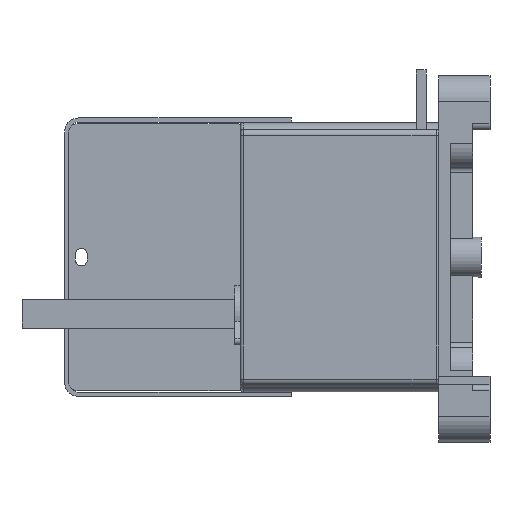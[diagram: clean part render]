
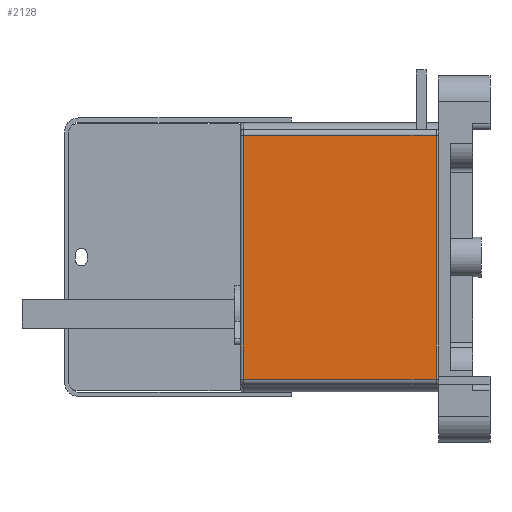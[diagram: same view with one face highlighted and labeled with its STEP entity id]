
A CAD part, left-side view. The second image highlights one B-rep face of the part: STEP entity #2128.
In plain terms, the highlighted planar face has unit normal (-1, 0, 0).
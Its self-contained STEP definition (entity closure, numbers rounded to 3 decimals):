
#2128=ADVANCED_FACE('',(#3445),#2681,.F.);
#2681=PLANE('',#18165);
#3445=FACE_OUTER_BOUND('',#4485,.T.);
#4485=EDGE_LOOP('',(#8962,#8963,#8964,#8965));
#8962=ORIENTED_EDGE('',*,*,#13221,.F.);
#8963=ORIENTED_EDGE('',*,*,#13206,.T.);
#8964=ORIENTED_EDGE('',*,*,#13222,.T.);
#8965=ORIENTED_EDGE('',*,*,#12898,.T.);
#10659=VERTEX_POINT('',#27018);
#10663=VERTEX_POINT('',#27027);
#10859=VERTEX_POINT('',#27738);
#10863=VERTEX_POINT('',#27770);
#12898=EDGE_CURVE('',#10659,#10663,#14786,.T.);
#13206=EDGE_CURVE('',#10859,#10863,#14946,.T.);
#13221=EDGE_CURVE('',#10859,#10663,#14953,.T.);
#13222=EDGE_CURVE('',#10863,#10659,#14954,.T.);
#14786=LINE('',#27028,#16518);
#14946=LINE('',#27771,#16678);
#14953=LINE('',#27824,#16685);
#14954=LINE('',#27826,#16686);
#16518=VECTOR('',#22101,1.);
#16678=VECTOR('',#22767,1.);
#16685=VECTOR('',#22794,1.);
#16686=VECTOR('',#22797,1.);
#18165=AXIS2_PLACEMENT_3D('',#27827,#22798,#22799);
#22101=DIRECTION('',(0.,0.,1.));
#22767=DIRECTION('',(0.,0.,-1.));
#22794=DIRECTION('',(0.,-1.,0.));
#22797=DIRECTION('',(0.,-1.,0.));
#22798=DIRECTION('',(1.,0.,0.));
#22799=DIRECTION('',(0.,0.,-1.));
#27018=CARTESIAN_POINT('',(-41.,1.,-43.));
#27027=CARTESIAN_POINT('',(-41.,1.,43.));
#27028=CARTESIAN_POINT('',(-41.,1.,-43.));
#27738=CARTESIAN_POINT('',(-41.,69.,43.));
#27770=CARTESIAN_POINT('',(-41.,69.,-43.));
#27771=CARTESIAN_POINT('',(-41.,69.,-43.));
#27824=CARTESIAN_POINT('',(-41.,35.,43.));
#27826=CARTESIAN_POINT('',(-41.,35.,-43.));
#27827=CARTESIAN_POINT('',(-41.,35.,-43.));
